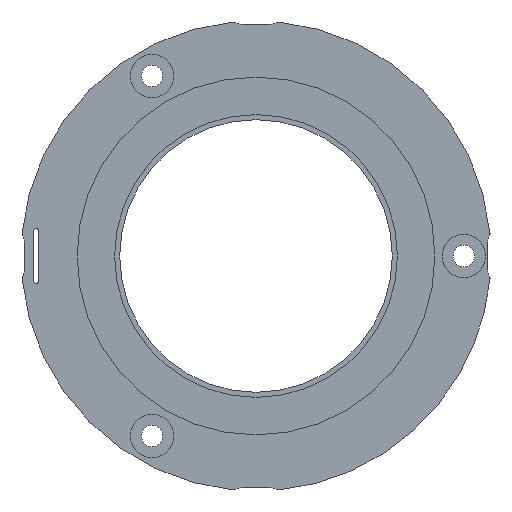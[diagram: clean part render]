
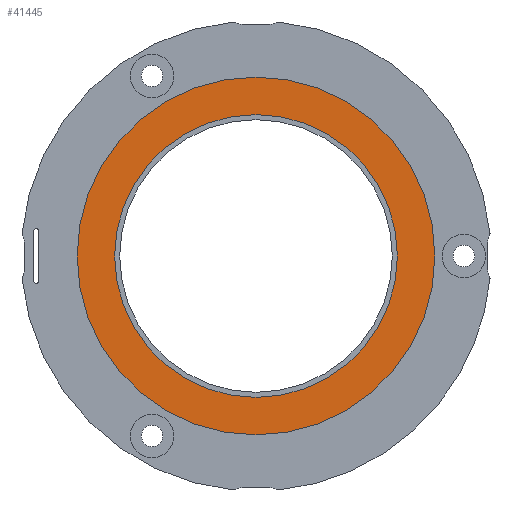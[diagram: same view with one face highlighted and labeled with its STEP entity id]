
A CAD part, front view. The second image highlights one B-rep face of the part: STEP entity #41445.
In plain terms, the highlighted planar face has unit normal (0, -1, 0).
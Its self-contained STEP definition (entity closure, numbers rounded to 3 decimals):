
#1432 = VERTEX_POINT ( 'NONE', #80474 ) ;
#4368 = CARTESIAN_POINT ( 'NONE',  ( 0., -1.601, 0. ) ) ;
#5214 = DIRECTION ( 'NONE',  ( 0., -1., 0. ) ) ;
#13075 = VERTEX_POINT ( 'NONE', #37412 ) ;
#18160 = CIRCLE ( 'NONE', #50421, 26.25 ) ;
#18440 = CARTESIAN_POINT ( 'NONE',  ( 0., -1.601, 0. ) ) ;
#20581 = DIRECTION ( 'NONE',  ( -0.866, 0., 0.5 ) ) ;
#20928 = VERTEX_POINT ( 'NONE', #43525 ) ;
#21654 = ORIENTED_EDGE ( 'NONE', *, *, #34124, .F. ) ;
#23793 = DIRECTION ( 'NONE',  ( -0.866, 0., 0.5 ) ) ;
#27212 = FACE_OUTER_BOUND ( 'NONE', #57947, .T. ) ;
#27613 = PLANE ( 'NONE',  #62016 ) ;
#27692 = EDGE_CURVE ( 'NONE', #44498, #1432, #58719, .T. ) ;
#30198 = DIRECTION ( 'NONE',  ( -0.866, 0., 0.5 ) ) ;
#32309 = CARTESIAN_POINT ( 'NONE',  ( 0., -1.601, 0. ) ) ;
#34124 = EDGE_CURVE ( 'NONE', #1432, #44498, #79220, .T. ) ;
#37412 = CARTESIAN_POINT ( 'NONE',  ( 22.733, -1.601, -13.125 ) ) ;
#39674 = DIRECTION ( 'NONE',  ( 0., -1., 0. ) ) ;
#41445 = ADVANCED_FACE ( 'NONE', ( #27212, #80005 ), #27613, .T. ) ;
#41473 = AXIS2_PLACEMENT_3D ( 'NONE', #32309, #57747, #20581 ) ;
#43240 = DIRECTION ( 'NONE',  ( 0., -1., 0. ) ) ;
#43525 = CARTESIAN_POINT ( 'NONE',  ( -22.733, -1.601, 13.125 ) ) ;
#44365 = CARTESIAN_POINT ( 'NONE',  ( 0., -1.601, 0. ) ) ;
#44498 = VERTEX_POINT ( 'NONE', #74237 ) ;
#45637 = CIRCLE ( 'NONE', #41473, 26.25 ) ;
#46363 = ORIENTED_EDGE ( 'NONE', *, *, #27692, .F. ) ;
#50421 = AXIS2_PLACEMENT_3D ( 'NONE', #4368, #5214, #23793 ) ;
#50705 = ORIENTED_EDGE ( 'NONE', *, *, #74974, .T. ) ;
#54564 = AXIS2_PLACEMENT_3D ( 'NONE', #18440, #43240, #30198 ) ;
#55046 = DIRECTION ( 'NONE',  ( 0., -1., 0. ) ) ;
#57638 = AXIS2_PLACEMENT_3D ( 'NONE', #44365, #39674, #77328 ) ;
#57747 = DIRECTION ( 'NONE',  ( 0., -1., 0. ) ) ;
#57947 = EDGE_LOOP ( 'NONE', ( #50705, #74308 ) ) ;
#58719 = CIRCLE ( 'NONE', #54564, 20.75 ) ;
#60986 = CARTESIAN_POINT ( 'NONE',  ( 0., -1.601, 0. ) ) ;
#62016 = AXIS2_PLACEMENT_3D ( 'NONE', #60986, #55046, #68165 ) ;
#66088 = EDGE_CURVE ( 'NONE', #20928, #13075, #18160, .T. ) ;
#68165 = DIRECTION ( 'NONE',  ( -0.866, 0., 0.5 ) ) ;
#70176 = EDGE_LOOP ( 'NONE', ( #46363, #21654 ) ) ;
#74237 = CARTESIAN_POINT ( 'NONE',  ( 17.97, -1.601, -10.375 ) ) ;
#74308 = ORIENTED_EDGE ( 'NONE', *, *, #66088, .T. ) ;
#74974 = EDGE_CURVE ( 'NONE', #13075, #20928, #45637, .T. ) ;
#77328 = DIRECTION ( 'NONE',  ( -0.866, 0., 0.5 ) ) ;
#79220 = CIRCLE ( 'NONE', #57638, 20.75 ) ;
#80005 = FACE_BOUND ( 'NONE', #70176, .T. ) ;
#80474 = CARTESIAN_POINT ( 'NONE',  ( -17.97, -1.601, 10.375 ) ) ;
